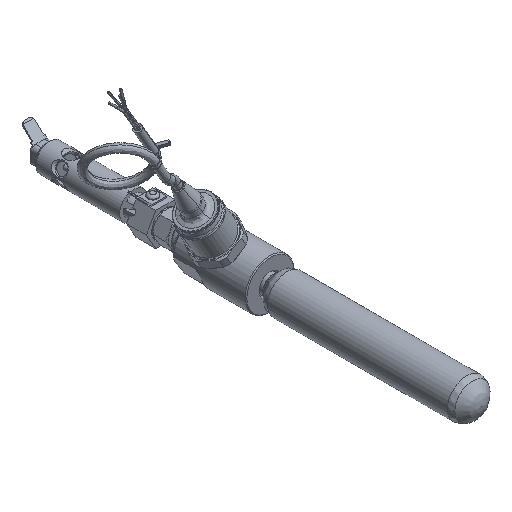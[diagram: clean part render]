
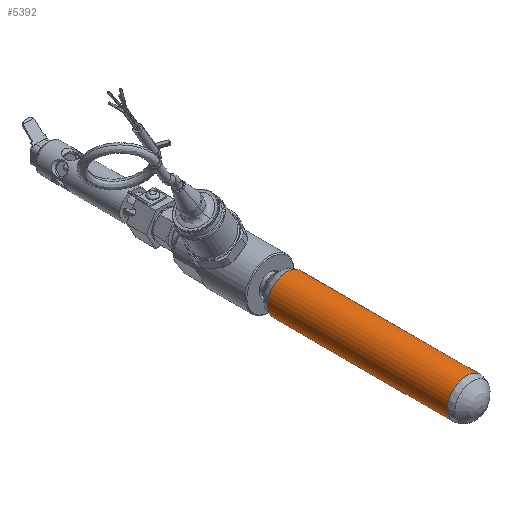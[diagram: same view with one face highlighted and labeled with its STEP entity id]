
A CAD part, isometric view. The second image highlights one B-rep face of the part: STEP entity #5392.
In plain terms, the highlighted cylindrical face has radius 11.051 mm (diameter 22.102 mm), a full revolution.
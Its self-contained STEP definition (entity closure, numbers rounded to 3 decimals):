
#523=CYLINDRICAL_SURFACE('',#5752,11.051);
#713=CIRCLE('',#5750,11.051);
#714=CIRCLE('',#5751,11.051);
#715=CIRCLE('',#5753,11.051);
#716=CIRCLE('',#5754,11.051);
#999=FACE_OUTER_BOUND('',#1312,.T.);
#1312=EDGE_LOOP('',(#4531,#4532,#4533,#4534,#4535,#4536));
#1587=LINE('',#17325,#1847);
#1847=VECTOR('',#6657,11.051);
#2323=VERTEX_POINT('',#17318);
#2324=VERTEX_POINT('',#17320);
#2325=VERTEX_POINT('',#17324);
#2326=VERTEX_POINT('',#17326);
#3075=EDGE_CURVE('',#2323,#2324,#713,.T.);
#3076=EDGE_CURVE('',#2324,#2323,#714,.T.);
#3077=EDGE_CURVE('',#2324,#2325,#1587,.T.);
#3078=EDGE_CURVE('',#2325,#2326,#715,.T.);
#3079=EDGE_CURVE('',#2326,#2325,#716,.T.);
#4531=ORIENTED_EDGE('',*,*,#3075,.F.);
#4532=ORIENTED_EDGE('',*,*,#3076,.F.);
#4533=ORIENTED_EDGE('',*,*,#3077,.T.);
#4534=ORIENTED_EDGE('',*,*,#3078,.T.);
#4535=ORIENTED_EDGE('',*,*,#3079,.T.);
#4536=ORIENTED_EDGE('',*,*,#3077,.F.);
#5392=ADVANCED_FACE('',(#999),#523,.T.);
#5750=AXIS2_PLACEMENT_3D('',#17321,#6651,#6652);
#5751=AXIS2_PLACEMENT_3D('',#17322,#6653,#6654);
#5752=AXIS2_PLACEMENT_3D('',#17323,#6655,#6656);
#5753=AXIS2_PLACEMENT_3D('',#17327,#6658,#6659);
#5754=AXIS2_PLACEMENT_3D('',#17328,#6660,#6661);
#6651=DIRECTION('center_axis',(0.,1.,0.));
#6652=DIRECTION('ref_axis',(1.,0.,0.));
#6653=DIRECTION('center_axis',(0.,1.,0.));
#6654=DIRECTION('ref_axis',(1.,0.,0.));
#6655=DIRECTION('center_axis',(0.,1.,0.));
#6656=DIRECTION('ref_axis',(-1.,0.,0.));
#6657=DIRECTION('',(0.,-1.,0.));
#6658=DIRECTION('center_axis',(0.,1.,0.));
#6659=DIRECTION('ref_axis',(1.,0.,0.));
#6660=DIRECTION('center_axis',(0.,1.,0.));
#6661=DIRECTION('ref_axis',(1.,0.,0.));
#17318=CARTESIAN_POINT('',(0.,111.674,-11.051));
#17320=CARTESIAN_POINT('',(11.051,111.674,0.));
#17321=CARTESIAN_POINT('Origin',(0.,111.674,0.));
#17322=CARTESIAN_POINT('Origin',(0.,111.674,0.));
#17323=CARTESIAN_POINT('Origin',(0.,84.917,0.));
#17324=CARTESIAN_POINT('',(11.051,8.684,0.));
#17325=CARTESIAN_POINT('',(11.051,84.917,0.));
#17326=CARTESIAN_POINT('',(0.,8.684,-11.051));
#17327=CARTESIAN_POINT('Origin',(0.,8.684,0.));
#17328=CARTESIAN_POINT('Origin',(0.,8.684,0.));
